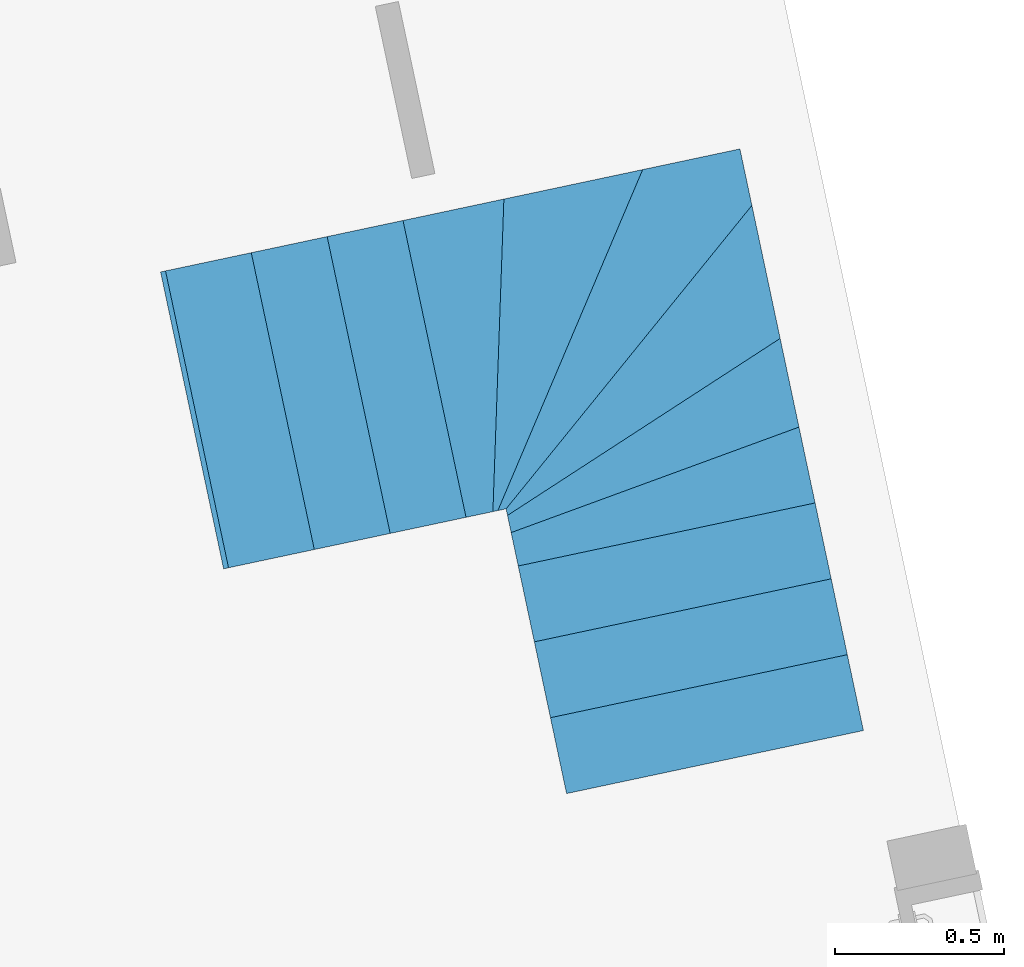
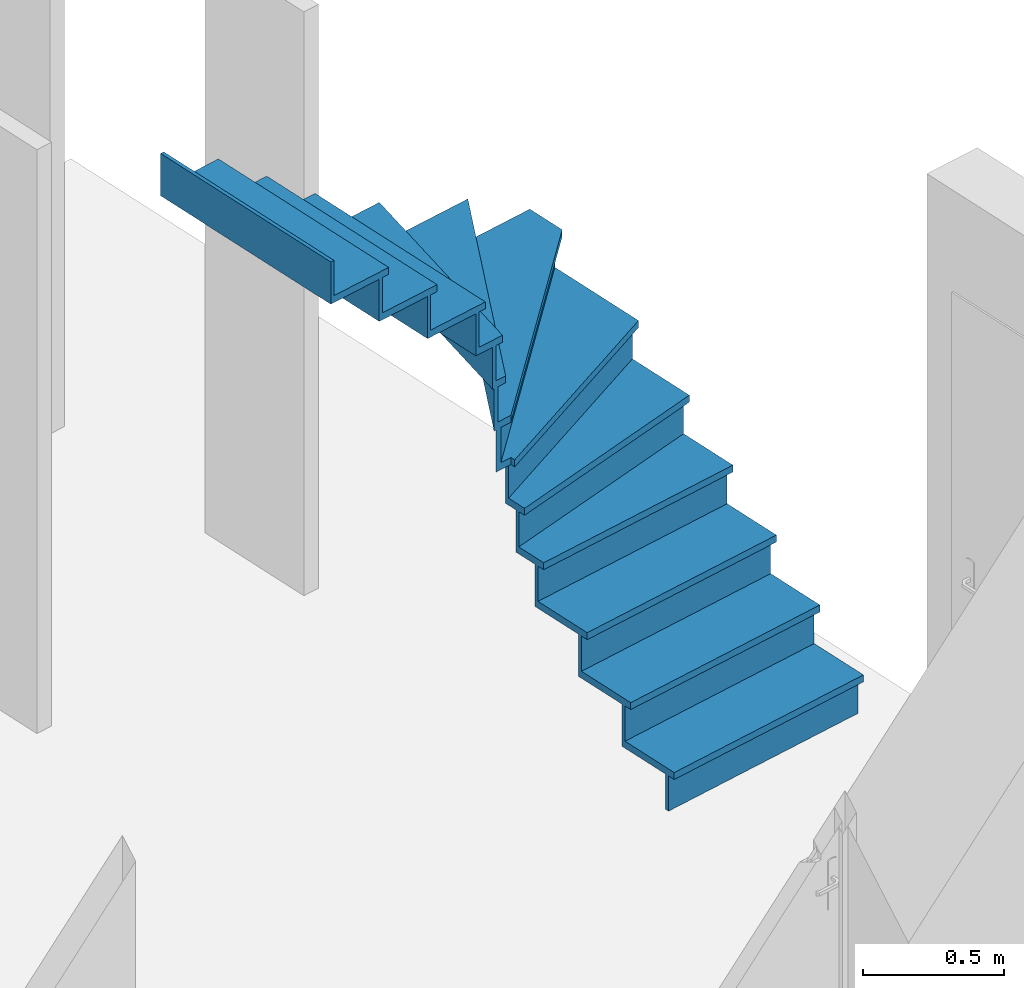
# One storey, part 5 of 11: 1 stair, 1 element without a shape of its own.
"""IFC2X3 building model written with IfcOpenShell, lengths in centimetres."""

from ifc_helpers import new_model, entity, si_unit, converted_unit, derived_unit, direction, frame, frame_2d, origin, origin_2d_with_axis, place, context, subcontext, project, spatial, polyline, rectangle, outline, extrude, material, element, aggregate, save


model = new_model("IFC2X3")

# Units and contexts
model_context = context("Model", 3, precision=0.001, world=origin(), true_north=direction((6.12303176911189e-17, 1.0)))
body_context = subcontext(model_context, "Body", "Model", "MODEL_VIEW")
ifc_project = project(units=[si_unit("LENGTHUNIT", "METRE", prefix="CENTI"), si_unit("AREAUNIT", "SQUARE_METRE"), si_unit("VOLUMEUNIT", "CUBIC_METRE"), converted_unit("PLANEANGLEUNIT", "DEGREE", entity("IfcRatioMeasure", 0.0174532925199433), si_unit("PLANEANGLEUNIT", "RADIAN"), dimensions=[0, 0, 0, 0, 0, 0, 0]), si_unit("MASSUNIT", "GRAM", prefix="KILO"), derived_unit("MASSDENSITYUNIT", [(si_unit("MASSUNIT", "GRAM", prefix="KILO"), 1), (si_unit("LENGTHUNIT", "METRE"), -3)]), derived_unit("IONCONCENTRATIONUNIT", [(si_unit("MASSUNIT", "GRAM", prefix="KILO"), 1), (si_unit("LENGTHUNIT", "METRE"), -3)]), derived_unit("MOMENTOFINERTIAUNIT", [(si_unit("LENGTHUNIT", "METRE"), 4)]), si_unit("TIMEUNIT", "SECOND"), si_unit("FREQUENCYUNIT", "HERTZ"), si_unit("THERMODYNAMICTEMPERATUREUNIT", "DEGREE_CELSIUS"), derived_unit("THERMALTRANSMITTANCEUNIT", [(si_unit("MASSUNIT", "GRAM", prefix="KILO"), 1), (si_unit("THERMODYNAMICTEMPERATUREUNIT", "KELVIN"), -1), (si_unit("TIMEUNIT", "SECOND"), -3)]), derived_unit("THERMALCONDUCTANCEUNIT", [(si_unit("MASSUNIT", "GRAM", prefix="KILO"), 1), (si_unit("THERMODYNAMICTEMPERATUREUNIT", "KELVIN"), -1), (si_unit("TIMEUNIT", "SECOND"), -3), (si_unit("LENGTHUNIT", "METRE"), 1)]), derived_unit("VOLUMETRICFLOWRATEUNIT", [(si_unit("LENGTHUNIT", "METRE"), 3), (si_unit("TIMEUNIT", "SECOND"), -1)]), derived_unit("MASSFLOWRATEUNIT", [(si_unit("MASSUNIT", "GRAM", prefix="KILO"), 1), (si_unit("TIMEUNIT", "SECOND"), -1)]), derived_unit("ROTATIONALFREQUENCYUNIT", [(si_unit("TIMEUNIT", "SECOND"), -1)]), si_unit("ELECTRICCURRENTUNIT", "AMPERE"), si_unit("ELECTRICVOLTAGEUNIT", "VOLT"), si_unit("POWERUNIT", "WATT"), si_unit("FORCEUNIT", "NEWTON", prefix="KILO"), si_unit("ILLUMINANCEUNIT", "LUX"), si_unit("LUMINOUSFLUXUNIT", "LUMEN"), si_unit("LUMINOUSINTENSITYUNIT", "CANDELA"), derived_unit("USERDEFINED", [(si_unit("MASSUNIT", "GRAM", prefix="KILO"), -1), (si_unit("LENGTHUNIT", "METRE"), -2), (si_unit("TIMEUNIT", "SECOND"), 3), (si_unit("LUMINOUSFLUXUNIT", "LUMEN"), 1)]), derived_unit("USERDEFINED", [(si_unit("MASSUNIT", "GRAM", prefix="KILO"), 1), (si_unit("TIMEUNIT", "SECOND"), -3), (si_unit("LENGTHUNIT", "METRE"), 3), (si_unit("ELECTRICCURRENTUNIT", "AMPERE"), -2)]), derived_unit("SOUNDPOWERUNIT", [(si_unit("MASSUNIT", "GRAM", prefix="KILO"), 1), (si_unit("TIMEUNIT", "SECOND"), -3), (si_unit("LENGTHUNIT", "METRE"), 2)]), derived_unit("SOUNDPRESSUREUNIT", [(si_unit("MASSUNIT", "GRAM", prefix="KILO"), 1), (si_unit("LENGTHUNIT", "METRE"), -1), (si_unit("TIMEUNIT", "SECOND"), -2)]), derived_unit("LINEARVELOCITYUNIT", [(si_unit("LENGTHUNIT", "METRE"), 1), (si_unit("TIMEUNIT", "SECOND"), -1)]), si_unit("PRESSUREUNIT", "PASCAL"), derived_unit("USERDEFINED", [(si_unit("MASSUNIT", "GRAM", prefix="KILO"), 1), (si_unit("LENGTHUNIT", "METRE"), -2), (si_unit("TIMEUNIT", "SECOND"), -2)]), derived_unit("LINEARFORCEUNIT", [(si_unit("MASSUNIT", "GRAM", prefix="KILO"), 1), (si_unit("TIMEUNIT", "SECOND"), -2)]), derived_unit("PLANARFORCEUNIT", [(si_unit("MASSUNIT", "GRAM", prefix="KILO"), 1), (si_unit("LENGTHUNIT", "METRE"), -1), (si_unit("TIMEUNIT", "SECOND"), -2)]), derived_unit("SPECIFICHEATCAPACITYUNIT", [(si_unit("THERMODYNAMICTEMPERATUREUNIT", "KELVIN"), -1), (si_unit("LENGTHUNIT", "METRE"), 2), (si_unit("TIMEUNIT", "SECOND"), -2)]), derived_unit("HEATINGVALUEUNIT", [(si_unit("LENGTHUNIT", "METRE"), 2), (si_unit("TIMEUNIT", "SECOND"), -2)]), derived_unit("VAPORPERMEABILITYUNIT", [(si_unit("LENGTHUNIT", "METRE"), -1), (si_unit("TIMEUNIT", "SECOND"), 1)]), derived_unit("DYNAMICVISCOSITYUNIT", [(si_unit("MASSUNIT", "GRAM", prefix="KILO"), 1), (si_unit("TIMEUNIT", "SECOND"), -1), (si_unit("LENGTHUNIT", "METRE"), -1)]), derived_unit("THERMALEXPANSIONCOEFFICIENTUNIT", [(si_unit("THERMODYNAMICTEMPERATUREUNIT", "KELVIN"), -1)]), derived_unit("MODULUSOFELASTICITYUNIT", [(si_unit("MASSUNIT", "GRAM", prefix="KILO"), 1), (si_unit("LENGTHUNIT", "METRE"), -1), (si_unit("TIMEUNIT", "SECOND"), -2)]), derived_unit("ISOTHERMALMOISTURECAPACITYUNIT", [(si_unit("LENGTHUNIT", "METRE"), 3), (si_unit("MASSUNIT", "GRAM", prefix="KILO"), -1)]), derived_unit("MOISTUREDIFFUSIVITYUNIT", [(si_unit("TIMEUNIT", "SECOND"), -1), (si_unit("LENGTHUNIT", "METRE"), 2)])], contexts=[model_context])

# Site, building, storey
site_placement = place(None, frame((14083.8920177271, -6853.25409548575, 6900.0), z_axis=(0.0, 0.0, 1.0), x_axis=(0.978188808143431, 0.207717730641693, 0.0)))
site = spatial("IfcSite", under=ifc_project, at=site_placement, Name="Surface", CompositionType="ELEMENT")
building_placement = place(site_placement, origin())
building = spatial("IfcBuilding", under=site, at=building_placement, CompositionType="ELEMENT")
storey_placement = place(building_placement, frame((0.0, 0.0, 17.0)))
storey = spatial("IfcBuildingStorey", under=building, at=storey_placement, Name="Rez de chaussée", CompositionType="ELEMENT", Elevation=17.0000000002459)

# Stairs
stair_1_placement = place(storey_placement, origin())
stair_1 = element("IfcStair", 1, at=stair_1_placement, inside=storey, Name="Escalier:*Bois - Limons à la Française", ObjectType="Escalier:*Bois - Limons à la Française", ShapeType="NOTDEFINED")
ifc_material = material(Name="<Unnamed>")
stair_2_placement = place(stair_1_placement, origin())
stair_2 = element("IfcStair", 2, at=stair_2_placement, material=ifc_material, Name="Escalier:*Bois - Limons à la Française", ObjectType="Escalier:*Bois - Limons à la Française", ShapeType="NOTDEFINED", context=body_context, shape_type="SweptSolid", body=[
    extrude(rectangle(XDim=90.0000000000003, YDim=1.49999999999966, at=frame_2d((0.0, -8.6630702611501e-13), x_axis=(1.0, 0.0))), frame((-6852.9551432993, 14974.4456945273, 0.0), z_axis=(0.0, 0.0, 1.0), x_axis=(-1.0, 0.0, 0.0)), (0.0, 0.0, 1.0), 15.2142857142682),
    extrude(rectangle(XDim=25.9999999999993, YDim=90.0000000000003, at=frame_2d((-8.66862137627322e-13, 0.0), x_axis=(1.0, 0.0))), frame((-6852.9551432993, 14983.6956945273, 15.2142857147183), z_axis=(0.0, 0.0, 1.0), x_axis=(0.0, -1.0, 0.0)), (0.0, 0.0, 1.0), 3.0),
    extrude(rectangle(XDim=90.0000000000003, YDim=1.49999999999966, at=frame_2d((0.0, 8.6630702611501e-13), x_axis=(1.0, 0.0))), frame((-6852.9551432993, 14997.4456945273, 15.2142857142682), z_axis=(0.0, 0.0, 1.0), x_axis=(-1.0, 0.0, 0.0)), (0.0, 0.0, 1.0), 18.2142857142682),
    extrude(rectangle(XDim=25.9999999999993, YDim=90.0000000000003, at=frame_2d((8.66862137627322e-13, 0.0), x_axis=(1.0, 0.0))), frame((-6852.9551432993, 15006.6956945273, 33.4285714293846), z_axis=(0.0, 0.0, 1.0), x_axis=(0.0, -1.0, 0.0)), (0.0, 0.0, 1.0), 3.0),
    extrude(rectangle(XDim=90.0000000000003, YDim=1.49999999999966, at=frame_2d((0.0, 8.6630702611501e-13), x_axis=(1.0, 0.0))), frame((-6852.9551432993, 15020.4456945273, 33.4285714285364), z_axis=(0.0, 0.0, 1.0), x_axis=(-1.0, 0.0, 0.0)), (0.0, 0.0, 1.0), 18.2142857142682),
    extrude(rectangle(XDim=25.9999999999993, YDim=90.0000000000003, at=frame_2d((-8.66862137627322e-13, 0.0), x_axis=(1.0, 0.0))), frame((-6852.9551432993, 15029.6956945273, 51.6428571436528), z_axis=(0.0, 0.0, 1.0), x_axis=(0.0, -1.0, 0.0)), (0.0, 0.0, 1.0), 3.00000000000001),
    extrude(rectangle(XDim=90.0000000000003, YDim=1.49999999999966, at=frame_2d((0.0, -8.6630702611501e-13), x_axis=(1.0, 0.0))), frame((-6852.9551432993, 15043.4456945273, 51.6428571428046), z_axis=(0.0, 0.0, 1.0), x_axis=(-1.0, 0.0, 0.0)), (0.0, 0.0, 1.0), 18.2142857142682),
    extrude(outline(polyline([(-0.722260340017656, -54.0), (12.4381947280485, -54.0), (12.4381947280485, 36.0), (-10.5618052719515, 36.0), (-13.5923238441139, 36.0), (-0.722260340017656, -54.0)])), frame((-6843.9551432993, 15052.1338892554, 69.857142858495), z_axis=(0.0, 0.0, 1.0), x_axis=(0.0, -1.0, 0.0)), (0.0, 0.0, 1.0), 2.99999999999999),
    extrude(outline(polyline([(-45.5650291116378, -0.749999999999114), (45.3505280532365, -0.749999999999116), (45.5650291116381, 0.750000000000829), (-45.3505280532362, 0.750000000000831), (-45.5650291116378, -0.749999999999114)])), frame((-6852.9551432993, 15060.0488109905, 69.8571428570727), z_axis=(0.0, 0.0, 1.0), x_axis=(-0.989929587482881, -0.141560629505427, 0.0)), (0.0, 0.0, 1.0), 18.2142857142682),
    extrude(outline(polyline([(7.64773917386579, -45.0), (16.061174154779, -45.0), (3.19111065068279, 45.0), (-26.9000239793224, 45.0), (7.64773917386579, -45.0)])), frame((-6852.9551432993, 15065.886805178, 88.0714285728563), z_axis=(0.0, 0.0, 1.0), x_axis=(0.0, -1.0, 0.0)), (0.0, 0.0, 1.0), 2.99999999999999),
    extrude(outline(polyline([(-48.489422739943, -0.749999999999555), (47.9136266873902, -0.749999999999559), (48.489422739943, 0.749999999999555), (-47.9136266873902, 0.749999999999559), (-48.489422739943, -0.749999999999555)])), frame((-6852.9551432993, 15076.316306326, 88.0714285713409), z_axis=(0.0, 0.0, 1.0), x_axis=(-0.9335804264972, -0.358367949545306, 0.0)), (0.0, 0.0, 1.0), 18.2142857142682),
    extrude(outline(polyline([(-39.8136377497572, 21.457720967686), (54.9534094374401, -55.283120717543), (54.9534094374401, -11.0900421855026), (-35.0465905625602, 23.4577209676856), (-35.0465905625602, 21.457720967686), (-39.8136377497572, 21.457720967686)])), frame((-6862.90855273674, 15078.4833519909, 106.285714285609), z_axis=(0.0, 0.0, -1.0), x_axis=(1.0, 0.0, 0.0)), (0.0, 0.0, -1.0), 2.99999999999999),
    extrude(outline(polyline([(-62.3452957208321, -0.749999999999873), (62.6641305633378, -0.749999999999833), (60.811784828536, 0.749999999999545), (-61.1306196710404, 0.749999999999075), (-62.3452957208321, -0.749999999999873)])), frame((-6855.9345477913, 15095.878586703, 106.285714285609), z_axis=(0.0, 0.0, 1.0), x_axis=(-0.777145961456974, -0.629320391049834, 0.0)), (0.0, 0.0, 1.0), 18.2142857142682),
    extrude(outline(polyline([(-52.3011299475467, -50.5761125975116), (-46.1388061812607, -50.5761125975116), (43.8611938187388, 22.3044503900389), (43.8611938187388, 39.4238874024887), (10.717548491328, 39.4238874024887), (-52.3011299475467, -50.5761125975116)])), frame((-6851.81633711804, 15107.6017436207, 124.499999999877)), (0.0, 0.0, 1.0), 2.99999999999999),
    extrude(outline(polyline([(-54.4097008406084, -0.75000000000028), (55.4600121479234, -0.750000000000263), (54.4097008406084, 0.75000000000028), (-55.4600121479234, 0.750000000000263), (-54.4097008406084, -0.75000000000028)])), frame((-6873.52370878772, 15102.0256310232, 124.499999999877), z_axis=(0.0, 0.0, 1.0), x_axis=(-0.573576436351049, -0.81915204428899, 0.0)), (0.0, 0.0, 1.0), 18.2142857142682),
    extrude(outline(polyline([(-23.6604701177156, -45.0), (-19.0686292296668, -45.0), (43.9500492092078, 45.0), (-1.22094986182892, 45.0), (-23.6604701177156, -45.0)])), frame((-6881.38651406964, 15102.0256310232, 142.714285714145)), (0.0, 0.0, 1.0), 2.99999999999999),
    extrude(outline(polyline([(-46.1906173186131, -0.750000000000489), (46.5646093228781, -0.750000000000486), (46.1906173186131, 0.750000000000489), (-46.5646093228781, 0.750000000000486), (-46.1906173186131, -0.750000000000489)])), frame((-6894.60018428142, 15102.0256310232, 142.714285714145), z_axis=(0.0, 0.0, 1.0), x_axis=(-0.241921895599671, -0.970295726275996, 0.0)), (0.0, 0.0, 1.0), 18.2142857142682),
    extrude(outline(polyline([(-9.54543713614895, -54.0), (1.59839557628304, -54.0), (24.0379158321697, 36.0), (-6.54543713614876, 36.0), (-9.54543713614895, 36.0), (-9.54543713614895, -54.0)])), frame((-6903.55353887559, 15111.0256310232, 160.928571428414)), (0.0, 0.0, 1.0), 2.99999999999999),
    extrude(rectangle(XDim=90.0000000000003, YDim=1.49999999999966, at=origin_2d_with_axis()), frame((-6913.84897601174, 15102.0256310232, 160.928571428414), z_axis=(0.0, 0.0, 1.0), x_axis=(0.0, -1.0, 0.0)), (0.0, 0.0, 1.0), 18.2142857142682),
    extrude(rectangle(XDim=26.0000000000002, YDim=90.0000000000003, at=frame_2d((4.33431068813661e-13, 0.0), x_axis=(1.0, 0.0))), frame((-6923.09897601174, 15102.0256310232, 179.142857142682)), (0.0, 0.0, 1.0), 2.99999999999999),
    extrude(rectangle(XDim=90.0000000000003, YDim=1.49999999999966, at=origin_2d_with_axis()), frame((-6936.84897601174, 15102.0256310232, 179.142857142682), z_axis=(0.0, 0.0, 1.0), x_axis=(0.0, -1.0, 0.0)), (0.0, 0.0, 1.0), 18.2142857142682),
    extrude(rectangle(XDim=26.0000000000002, YDim=90.0000000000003, at=frame_2d((-4.33431068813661e-13, 0.0), x_axis=(1.0, 0.0))), frame((-6946.09897601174, 15102.0256310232, 197.35714285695)), (0.0, 0.0, 1.0), 2.99999999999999),
    extrude(rectangle(XDim=90.0000000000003, YDim=1.49999999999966, at=origin_2d_with_axis()), frame((-6982.84897601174, 15102.0256310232, 215.571428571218), z_axis=(0.0, 0.0, 1.0), x_axis=(0.0, -1.0, 0.0)), (0.0, 0.0, 1.0), 18.2142857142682),
    extrude(rectangle(XDim=90.0000000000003, YDim=1.49999999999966, at=origin_2d_with_axis()), frame((-6959.84897601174, 15102.0256310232, 197.35714285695), z_axis=(0.0, 0.0, 1.0), x_axis=(0.0, -1.0, 0.0)), (0.0, 0.0, 1.0), 18.2142857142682),
    extrude(rectangle(XDim=26.0000000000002, YDim=90.0000000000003, at=frame_2d((4.33431068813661e-13, 0.0), x_axis=(1.0, 0.0))), frame((-6969.09897601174, 15102.0256310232, 215.571428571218)), (0.0, 0.0, 1.0), 2.99999999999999),
])
aggregate(stair_1, [stair_2])

save(model, "model.ifc")
